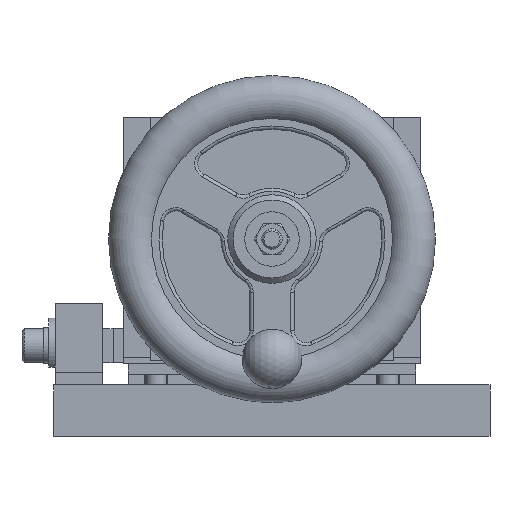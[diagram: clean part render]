
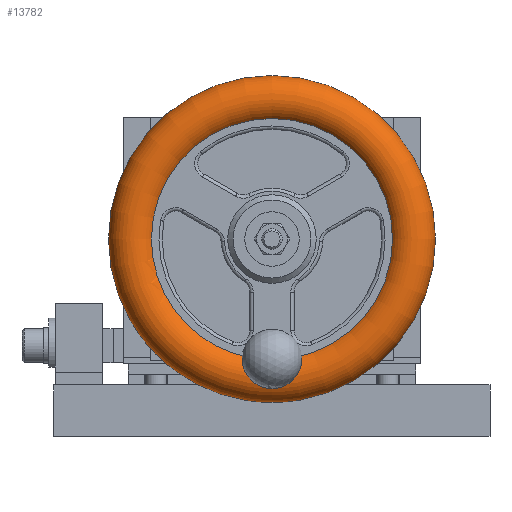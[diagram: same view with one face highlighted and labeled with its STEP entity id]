
A CAD part, front view. The second image highlights one B-rep face of the part: STEP entity #13782.
In plain terms, the highlighted toroidal (fillet/blend) face has major radius 65.088 mm and minor radius 11.113 mm.
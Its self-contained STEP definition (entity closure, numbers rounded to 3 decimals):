
#45=TOROIDAL_SURFACE('',#15185,65.088,11.113);
#98=B_SPLINE_CURVE_WITH_KNOTS('',3,(#22976,#22977,#22978,#22979),
 .UNSPECIFIED.,.F.,.F.,(4,4),(0.,0.001),
 .UNSPECIFIED.);
#99=B_SPLINE_CURVE_WITH_KNOTS('',3,(#22980,#22981,#22982,#22983,#22984,
#22985,#22986,#22987,#22988,#22989,#22990,#22991),.UNSPECIFIED.,.F.,.F.,
(4,2,2,2,2,4),(1.653,1.862,2.071,2.278,
2.486,2.579),.UNSPECIFIED.);
#100=B_SPLINE_CURVE_WITH_KNOTS('',3,(#22993,#22994,#22995,#22996,#22997,
#22998,#22999,#23000,#23001,#23002,#23003,#23004),.UNSPECIFIED.,.F.,.F.,
(4,2,2,2,2,4),(4.039,4.131,4.339,4.547,
4.756,4.965),.UNSPECIFIED.);
#101=B_SPLINE_CURVE_WITH_KNOTS('',3,(#23006,#23007,#23008,#23009),
 .UNSPECIFIED.,.F.,.F.,(4,4),(0.015,0.015),
 .UNSPECIFIED.);
#1641=FACE_OUTER_BOUND('',#2622,.T.);
#2622=EDGE_LOOP('',(#11375,#11376,#11377,#11378,#11379,#11380,#11381,#11382,
#11383,#11384,#11385,#11386));
#5390=CIRCLE('',#15141,65.088);
#5392=CIRCLE('',#15144,65.088);
#5422=CIRCLE('',#15183,65.088);
#5423=CIRCLE('',#15184,65.088);
#5424=CIRCLE('',#15186,11.113);
#5425=CIRCLE('',#15187,56.198);
#5426=CIRCLE('',#15188,56.198);
#6568=VERTEX_POINT('',#22878);
#6570=VERTEX_POINT('',#22881);
#6572=VERTEX_POINT('',#22887);
#6605=VERTEX_POINT('',#22965);
#6606=VERTEX_POINT('',#22967);
#6607=VERTEX_POINT('',#22971);
#6608=VERTEX_POINT('',#22973);
#6609=VERTEX_POINT('',#22975);
#6610=VERTEX_POINT('',#22992);
#6611=VERTEX_POINT('',#23005);
#8200=EDGE_CURVE('',#6570,#6568,#5390,.T.);
#8202=EDGE_CURVE('',#6568,#6572,#5392,.T.);
#8239=EDGE_CURVE('',#6605,#6606,#5422,.T.);
#8240=EDGE_CURVE('',#6606,#6605,#5423,.T.);
#8241=EDGE_CURVE('',#6605,#6607,#5424,.T.);
#8242=EDGE_CURVE('',#6607,#6608,#5425,.T.);
#8243=EDGE_CURVE('',#6609,#6608,#98,.T.);
#8244=EDGE_CURVE('',#6572,#6609,#99,.T.);
#8245=EDGE_CURVE('',#6610,#6570,#100,.T.);
#8246=EDGE_CURVE('',#6611,#6610,#101,.T.);
#8247=EDGE_CURVE('',#6611,#6607,#5426,.T.);
#11375=ORIENTED_EDGE('',*,*,#8240,.F.);
#11376=ORIENTED_EDGE('',*,*,#8239,.F.);
#11377=ORIENTED_EDGE('',*,*,#8241,.T.);
#11378=ORIENTED_EDGE('',*,*,#8242,.T.);
#11379=ORIENTED_EDGE('',*,*,#8243,.F.);
#11380=ORIENTED_EDGE('',*,*,#8244,.F.);
#11381=ORIENTED_EDGE('',*,*,#8202,.F.);
#11382=ORIENTED_EDGE('',*,*,#8200,.F.);
#11383=ORIENTED_EDGE('',*,*,#8245,.F.);
#11384=ORIENTED_EDGE('',*,*,#8246,.F.);
#11385=ORIENTED_EDGE('',*,*,#8247,.T.);
#11386=ORIENTED_EDGE('',*,*,#8241,.F.);
#13782=ADVANCED_FACE('',(#1641),#45,.T.);
#15141=AXIS2_PLACEMENT_3D('',#22883,#18565,#18566);
#15144=AXIS2_PLACEMENT_3D('',#22888,#18571,#18572);
#15183=AXIS2_PLACEMENT_3D('',#22968,#18656,#18657);
#15184=AXIS2_PLACEMENT_3D('',#22969,#18658,#18659);
#15185=AXIS2_PLACEMENT_3D('',#22970,#18660,#18661);
#15186=AXIS2_PLACEMENT_3D('',#22972,#18662,#18663);
#15187=AXIS2_PLACEMENT_3D('',#22974,#18664,#18665);
#15188=AXIS2_PLACEMENT_3D('',#23010,#18666,#18667);
#18565=DIRECTION('center_axis',(0.,-1.,0.));
#18566=DIRECTION('ref_axis',(-1.,0.,0.));
#18571=DIRECTION('center_axis',(0.,-1.,0.));
#18572=DIRECTION('ref_axis',(-1.,0.,0.));
#18656=DIRECTION('center_axis',(0.,1.,0.));
#18657=DIRECTION('ref_axis',(1.,0.,0.));
#18658=DIRECTION('center_axis',(0.,1.,0.));
#18659=DIRECTION('ref_axis',(1.,0.,0.));
#18660=DIRECTION('center_axis',(0.,1.,0.));
#18661=DIRECTION('ref_axis',(1.,0.,0.));
#18662=DIRECTION('center_axis',(0.,0.,
1.));
#18663=DIRECTION('ref_axis',(-1.,0.,0.));
#18664=DIRECTION('center_axis',(0.,1.,0.));
#18665=DIRECTION('ref_axis',(1.,0.,0.));
#18666=DIRECTION('center_axis',(0.,1.,0.));
#18667=DIRECTION('ref_axis',(1.,0.,0.));
#22878=CARTESIAN_POINT('',(0.,-210.5,-7.088));
#22881=CARTESIAN_POINT('',(-9.287,-210.5,-6.422));
#22883=CARTESIAN_POINT('Origin',(0.,-210.5,58.));
#22887=CARTESIAN_POINT('',(9.287,-210.5,-6.422));
#22888=CARTESIAN_POINT('Origin',(0.,-210.5,58.));
#22965=CARTESIAN_POINT('',(-65.087,-188.275,58.));
#22967=CARTESIAN_POINT('',(65.088,-188.275,58.));
#22968=CARTESIAN_POINT('Origin',(0.,-188.275,58.));
#22969=CARTESIAN_POINT('Origin',(0.,-188.275,58.));
#22970=CARTESIAN_POINT('Origin',(0.,-199.388,58.));
#22971=CARTESIAN_POINT('',(-56.197,-206.055,58.));
#22972=CARTESIAN_POINT('Origin',(-65.087,-199.388,58.));
#22973=CARTESIAN_POINT('',(9.279,-206.055,2.574));
#22974=CARTESIAN_POINT('Origin',(0.,-206.055,58.));
#22975=CARTESIAN_POINT('',(9.287,-206.523,2.199));
#22976=CARTESIAN_POINT('Ctrl Pts',(9.287,-206.523,2.199));
#22977=CARTESIAN_POINT('Ctrl Pts',(9.287,-206.37,2.329));
#22978=CARTESIAN_POINT('Ctrl Pts',(9.284,-206.214,2.454));
#22979=CARTESIAN_POINT('Ctrl Pts',(9.279,-206.055,2.574));
#22980=CARTESIAN_POINT('Ctrl Pts',(9.287,-210.5,-6.422));
#22981=CARTESIAN_POINT('Ctrl Pts',(9.287,-210.5,-5.726));
#22982=CARTESIAN_POINT('Ctrl Pts',(9.287,-210.432,-4.966));
#22983=CARTESIAN_POINT('Ctrl Pts',(9.287,-210.138,-3.477));
#22984=CARTESIAN_POINT('Ctrl Pts',(9.287,-209.912,-2.749));
#22985=CARTESIAN_POINT('Ctrl Pts',(9.287,-209.384,-1.464));
#22986=CARTESIAN_POINT('Ctrl Pts',(9.287,-209.033,-0.79));
#22987=CARTESIAN_POINT('Ctrl Pts',(9.287,-208.198,0.47));
#22988=CARTESIAN_POINT('Ctrl Pts',(9.287,-207.714,1.056));
#22989=CARTESIAN_POINT('Ctrl Pts',(9.287,-207.009,1.767));
#22990=CARTESIAN_POINT('Ctrl Pts',(9.287,-206.773,1.987));
#22991=CARTESIAN_POINT('Ctrl Pts',(9.287,-206.523,2.199));
#22992=CARTESIAN_POINT('',(-9.287,-206.523,2.199));
#22993=CARTESIAN_POINT('Ctrl Pts',(-9.287,-206.523,
2.199));
#22994=CARTESIAN_POINT('Ctrl Pts',(-9.287,-206.773,
1.987));
#22995=CARTESIAN_POINT('Ctrl Pts',(-9.287,-207.009,
1.767));
#22996=CARTESIAN_POINT('Ctrl Pts',(-9.287,-207.714,
1.056));
#22997=CARTESIAN_POINT('Ctrl Pts',(-9.287,-208.198,
0.47));
#22998=CARTESIAN_POINT('Ctrl Pts',(-9.287,-209.033,
-0.79));
#22999=CARTESIAN_POINT('Ctrl Pts',(-9.287,-209.384,
-1.464));
#23000=CARTESIAN_POINT('Ctrl Pts',(-9.287,-209.912,
-2.749));
#23001=CARTESIAN_POINT('Ctrl Pts',(-9.287,-210.138,
-3.477));
#23002=CARTESIAN_POINT('Ctrl Pts',(-9.287,-210.432,
-4.966));
#23003=CARTESIAN_POINT('Ctrl Pts',(-9.287,-210.5,
-5.726));
#23004=CARTESIAN_POINT('Ctrl Pts',(-9.287,-210.5,
-6.422));
#23005=CARTESIAN_POINT('',(-9.279,-206.055,2.574));
#23006=CARTESIAN_POINT('Ctrl Pts',(-9.279,-206.055,
2.574));
#23007=CARTESIAN_POINT('Ctrl Pts',(-9.284,-206.214,
2.454));
#23008=CARTESIAN_POINT('Ctrl Pts',(-9.287,-206.37,
2.329));
#23009=CARTESIAN_POINT('Ctrl Pts',(-9.287,-206.523,
2.199));
#23010=CARTESIAN_POINT('Origin',(0.,-206.055,58.));
